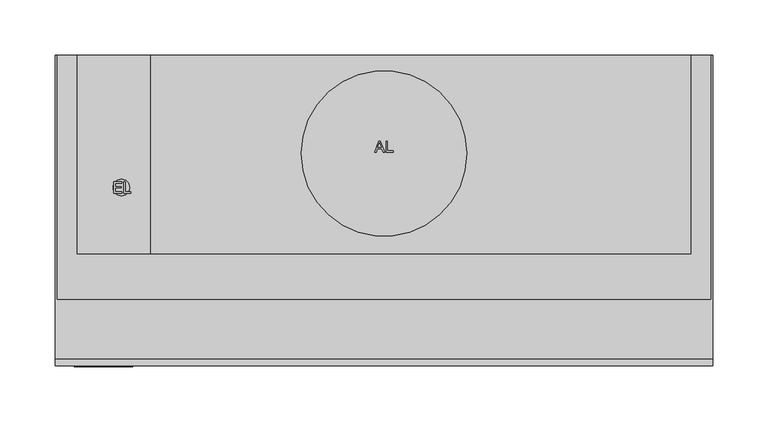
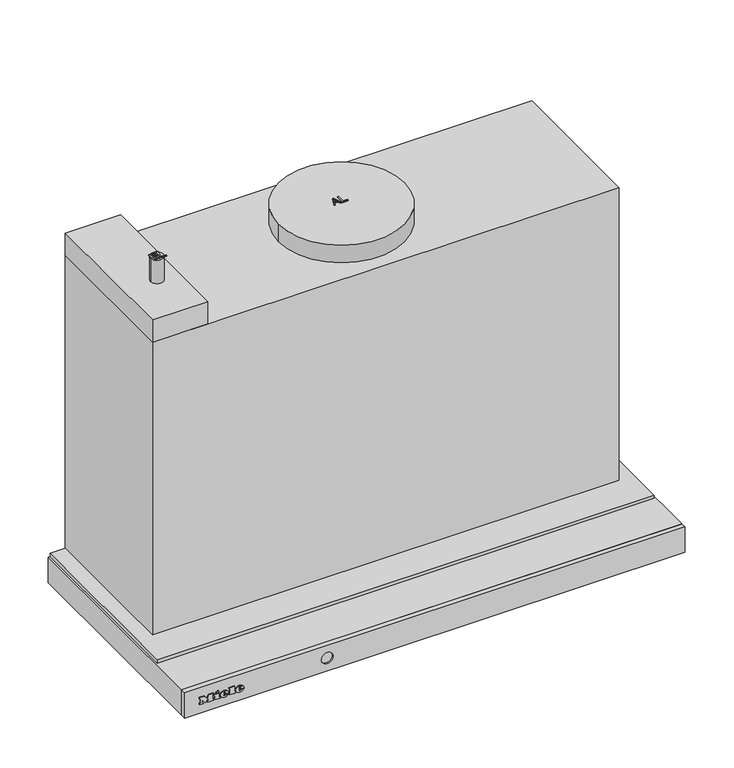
"""IFC4 building model written with IfcOpenShell, lengths in millimetres: proxy geometry, 12491120_RU_DAS4631_OBSW : 28S4631B_RU_12491120_DAS4631_OBSW."""

from ifc_helpers import new_model, si_unit, point, frame, frame_2d, origin, origin_with_axes, place, context, project, spatial, polyline, circle_curve, ellipse_curve, trimmed, segment, composite_curve, outline, extrude, faceted_brep, source, transform, mapped, element, save
from ifc_brep_helpers import plane_surface, cylinder_surface, revolved_surface, extruded_surface, advanced_brep


def specialty_equipment_66e986f9(model_context):
    return source(origin(), model_context, "Body", "SolidModel", [
        advanced_brep(
        [(-233.4590019, -282.1878927, -18.7681017), (-233.4590019, -282.1878927, -17.8894017), (-227.6387019, -282.1878927, -17.8894017), (-237.7655019, -282.1878927, -17.8894017), (-235.3730019, -282.1878927, -20.8300017), (-227.7866019, -282.1878927, -18.7681017), (-230.4140019, -282.1878927, -18.7681017), (-232.4846019, -282.1878927, -19.7425017), (-233.4590019, -282.1878927, -16.7758017), (-233.4590019, -282.1878927, -15.8275017), (-231.9713019, -282.1878927, -15.8275017), (-231.9713019, -282.1878927, -16.7758017), (-233.4590019, -281.1878927, -18.7681017), (-232.4846019, -281.1878927, -19.7425017), (-230.4140019, -281.1878927, -18.7681017), (-227.7866019, -281.1878927, -18.7681017), (-235.3730019, -281.1878927, -20.8300017), (-237.7655019, -281.1878927, -17.8894017), (-227.6387019, -281.1878927, -17.8894017), (-233.4590019, -281.1878927, -17.8894017), (-233.4590019, -281.1878927, -16.7758017), (-231.9713019, -281.1878927, -16.7758017), (-231.9713019, -281.1878927, -15.8275017), (-233.4590019, -281.1878927, -15.8275017)],
        [
            (0, 1),
            (1, 2),
            (2, 3, ellipse_curve(frame((-232.7021019, -282.1878927, -17.8894017), z_axis=(0.0, -1.0, 0.0), x_axis=(-1.0, 0.0, 0.0)), 5.0634, 4.1847)),
            (3, 4, circle_curve(frame((-234.3985544, -282.1878927, -17.5936017), z_axis=(0.0, -1.0, 0.0), x_axis=(0.0, 0.0, -1.0)), 3.3799161)),
            (4, 5, circle_curve(frame((-232.8034638, -282.1878927, -15.2968017), z_axis=(0.0, -1.0, 0.0), x_axis=(0.0, 0.0, -1.0)), 6.1007236)),
            (5, 6),
            (6, 7, circle_curve(frame((-232.0593254, -282.1878927, -17.9590017), z_axis=(0.0, 1.0, 0.0), x_axis=(0.0, 0.0, -1.0)), 1.8335027)),
            (7, 0, circle_curve(frame((-232.4846019, -282.1878927, -18.7681017), z_axis=(0.0, 1.0, 0.0), x_axis=(0.0, 0.0, -1.0)), 0.9744)),
            (8, 9),
            (9, 10, circle_curve(frame((-232.7151519, -282.1878927, -15.8275017), z_axis=(0.0, 1.0, 0.0), x_axis=(0.0, 0.0, -1.0)), 0.74385)),
            (10, 11),
            (11, 8),
            (12, 13, circle_curve(frame((-232.4846019, -281.1878927, -18.7681017), z_axis=(0.0, -1.0, 0.0), x_axis=(0.0, 0.0, -1.0)), 0.9744)),
            (13, 14, circle_curve(frame((-232.0593254, -281.1878927, -17.9590017), z_axis=(0.0, -1.0, 0.0), x_axis=(0.0, 0.0, -1.0)), 1.8335027)),
            (14, 15),
            (15, 16, circle_curve(frame((-232.8034638, -281.1878927, -15.2968017), z_axis=(0.0, 1.0, 0.0), x_axis=(0.0, 0.0, -1.0)), 6.1007236)),
            (16, 17, circle_curve(frame((-234.3985544, -281.1878927, -17.5936017), z_axis=(0.0, 1.0, 0.0), x_axis=(0.0, 0.0, -1.0)), 3.3799161)),
            (17, 18, ellipse_curve(frame((-232.7021019, -281.1878927, -17.8894017), z_axis=(0.0, 1.0, 0.0), x_axis=(-1.0, 0.0, 0.0)), 5.0634, 4.1847)),
            (18, 19),
            (19, 12),
            (20, 21),
            (21, 22),
            (22, 23, circle_curve(frame((-232.7151519, -281.1878927, -15.8275017), z_axis=(0.0, -1.0, 0.0), x_axis=(0.0, 0.0, -1.0)), 0.74385)),
            (23, 20),
            (0, 12),
            (19, 1),
            (18, 2),
            (5, 15),
            (14, 6),
            (17, 3),
            (13, 7),
            (16, 4),
            (8, 20),
            (23, 9),
            (22, 10),
            (21, 11),
        ],
        [
            plane_surface(frame((-233.4590019, -282.1878927, -17.8894017), z_axis=(0.0, -1.0, 0.0), x_axis=(0.0, 0.0, 1.0))),
            plane_surface(frame((-233.4590019, -281.1878927, -17.8894017), z_axis=(0.0, 1.0, 0.0), x_axis=(0.0, 0.0, -1.0))),
            plane_surface(frame((-233.4590019, -282.1878927, -18.7681017), z_axis=(1.0, 0.0, 0.0), x_axis=(0.0, 1.0, 0.0))),
            plane_surface(frame((-233.4590019, -282.1878927, -17.8894017), z_axis=(0.0, 0.0, -1.0), x_axis=(0.0, 1.0, 0.0))),
            plane_surface(frame((-227.7866019, -282.1878927, -18.7681017), z_axis=(0.0, 0.0, 1.0), x_axis=(0.0, 1.0, 0.0))),
            extruded_surface(trimmed(ellipse_curve(frame((-232.7021019, -280.1878927, -17.8894017), z_axis=(0.0, -1.0, 0.0), x_axis=(-1.0, 0.0, 0.0)), 5.0634, 4.1847), [point((-227.6387019, -280.1878927, -17.8894017))], [point((-237.7655019, -280.1878927, -17.8894017))], True, "CARTESIAN"), (0.0, -1.0, 0.0), 1.0),
            revolved_surface(polyline([(-232.0593254, -281.1878927, -19.792504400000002), (-232.0593254, -282.1878927, -19.792504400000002)]), (-232.0593254, -281.1878927, -17.9590017), (0.0, 1.0, 0.0)),
            revolved_surface(polyline([(-232.4846019, -281.1878927, -19.7425017), (-232.4846019, -282.1878927, -19.7425017)]), (-232.4846019, -281.1878927, -18.7681017), (0.0, 1.0, 0.0)),
            cylinder_surface(frame((-234.3985544, -281.1878927, -17.5936017), z_axis=(0.0, -1.0, 0.0), x_axis=(0.0, 0.0, -1.0)), 3.3799161),
            cylinder_surface(frame((-232.8034638, -281.1878927, -15.2968017), z_axis=(0.0, -1.0, 0.0), x_axis=(0.0, 0.0, -1.0)), 6.1007236),
            plane_surface(frame((-233.4590019, -282.1878927, -16.7758017), z_axis=(1.0, 0.0, 0.0), x_axis=(0.0, 1.0, 0.0))),
            revolved_surface(polyline([(-232.7151519, -281.1878927, -16.571351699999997), (-232.7151519, -282.1878927, -16.571351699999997)]), (-232.7151519, -281.1878927, -15.8275017), (0.0, 1.0, 0.0)),
            plane_surface(frame((-231.9713019, -282.1878927, -15.8275017), z_axis=(-1.0, 0.0, 0.0), x_axis=(0.0, 1.0, 0.0))),
            plane_surface(frame((-231.9713019, -282.1878927, -16.7758017), z_axis=(0.0, 0.0, 1.0), x_axis=(0.0, 1.0, 0.0))),
        ],
        [
            (0, [[1, 2, 3, 4, 5, 6, 7, 8], [9, 10, 11, 12]]),
            (1, [[13, 14, 15, 16, 17, 18, 19, 20], [21, 22, 23, 24]]),
            (2, [[-1, 25, -20, 26]]),
            (3, [[-2, -26, -19, 27]]),
            (4, [[-6, 28, -15, 29]]),
            (5, [[-3, -27, -18, 30]]),
            (6, [[-7, -29, -14, 31]]),
            (7, [[-8, -31, -13, -25]]),
            (8, [[-4, -30, -17, 32]]),
            (9, [[-5, -32, -16, -28]]),
            (10, [[-9, 33, -24, 34]]),
            (11, [[-10, -34, -23, 35]]),
            (12, [[-11, -35, -22, 36]]),
            (13, [[-12, -36, -21, -33]]),
        ],
    ),
        advanced_brep(
        [(-251.6159019, -282.1878927, -18.7681017), (-251.6159019, -282.1878927, -17.8894017), (-245.7956019, -282.1878927, -17.8894017), (-255.9224019, -282.1878927, -17.8894017), (-253.5299019, -282.1878927, -20.8300017), (-245.9435019, -282.1878927, -18.7681017), (-248.5709019, -282.1878927, -18.7681017), (-250.6415019, -282.1878927, -19.7425017), (-251.6159019, -282.1878927, -16.7758017), (-251.6159019, -282.1878927, -15.8275017), (-250.1282019, -282.1878927, -15.8275017), (-250.1282019, -282.1878927, -16.7758017), (-251.6159019, -281.1878927, -18.7681017), (-250.6415019, -281.1878927, -19.7425017), (-248.5709019, -281.1878927, -18.7681017), (-245.9435019, -281.1878927, -18.7681017), (-253.5299019, -281.1878927, -20.8300017), (-255.9224019, -281.1878927, -17.8894017), (-245.7956019, -281.1878927, -17.8894017), (-251.6159019, -281.1878927, -17.8894017), (-251.6159019, -281.1878927, -16.7758017), (-250.1282019, -281.1878927, -16.7758017), (-250.1282019, -281.1878927, -15.8275017), (-251.6159019, -281.1878927, -15.8275017)],
        [
            (0, 1),
            (1, 2),
            (2, 3, ellipse_curve(frame((-250.8590019, -282.1878927, -17.8894017), z_axis=(0.0, -1.0, 0.0), x_axis=(-1.0, 0.0, 0.0)), 5.0634, 4.1847)),
            (3, 4, circle_curve(frame((-252.5554544, -282.1878927, -17.5936017), z_axis=(0.0, -1.0, 0.0), x_axis=(0.0, 0.0, -1.0)), 3.3799161)),
            (4, 5, circle_curve(frame((-250.9603638, -282.1878927, -15.2968017), z_axis=(0.0, -1.0, 0.0), x_axis=(0.0, 0.0, -1.0)), 6.1007236)),
            (5, 6),
            (6, 7, circle_curve(frame((-250.2162254, -282.1878927, -17.9590017), z_axis=(0.0, 1.0, 0.0), x_axis=(0.0, 0.0, -1.0)), 1.8335027)),
            (7, 0, circle_curve(frame((-250.6415019, -282.1878927, -18.7681017), z_axis=(0.0, 1.0, 0.0), x_axis=(0.0, 0.0, -1.0)), 0.9744)),
            (8, 9),
            (9, 10, circle_curve(frame((-250.8720519, -282.1878927, -15.8275017), z_axis=(0.0, 1.0, 0.0), x_axis=(0.0, 0.0, -1.0)), 0.74385)),
            (10, 11),
            (11, 8),
            (12, 13, circle_curve(frame((-250.6415019, -281.1878927, -18.7681017), z_axis=(0.0, -1.0, 0.0), x_axis=(0.0, 0.0, -1.0)), 0.9744)),
            (13, 14, circle_curve(frame((-250.2162254, -281.1878927, -17.9590017), z_axis=(0.0, -1.0, 0.0), x_axis=(0.0, 0.0, -1.0)), 1.8335027)),
            (14, 15),
            (15, 16, circle_curve(frame((-250.9603638, -281.1878927, -15.2968017), z_axis=(0.0, 1.0, 0.0), x_axis=(0.0, 0.0, -1.0)), 6.1007236)),
            (16, 17, circle_curve(frame((-252.5554544, -281.1878927, -17.5936017), z_axis=(0.0, 1.0, 0.0), x_axis=(0.0, 0.0, -1.0)), 3.3799161)),
            (17, 18, ellipse_curve(frame((-250.8590019, -281.1878927, -17.8894017), z_axis=(0.0, 1.0, 0.0), x_axis=(-1.0, 0.0, 0.0)), 5.0634, 4.1847)),
            (18, 19),
            (19, 12),
            (20, 21),
            (21, 22),
            (22, 23, circle_curve(frame((-250.8720519, -281.1878927, -15.8275017), z_axis=(0.0, -1.0, 0.0), x_axis=(0.0, 0.0, -1.0)), 0.74385)),
            (23, 20),
            (0, 12),
            (19, 1),
            (18, 2),
            (5, 15),
            (14, 6),
            (17, 3),
            (13, 7),
            (16, 4),
            (8, 20),
            (23, 9),
            (22, 10),
            (21, 11),
        ],
        [
            plane_surface(frame((-251.6159019, -282.1878927, -17.8894017), z_axis=(0.0, -1.0, 0.0), x_axis=(0.0, 0.0, 1.0))),
            plane_surface(frame((-251.6159019, -281.1878927, -17.8894017), z_axis=(0.0, 1.0, 0.0), x_axis=(0.0, 0.0, -1.0))),
            plane_surface(frame((-251.6159019, -282.1878927, -18.7681017), z_axis=(1.0, 0.0, 0.0), x_axis=(0.0, 1.0, 0.0))),
            plane_surface(frame((-251.6159019, -282.1878927, -17.8894017), z_axis=(0.0, 0.0, -1.0), x_axis=(0.0, 1.0, 0.0))),
            plane_surface(frame((-245.9435019, -282.1878927, -18.7681017), z_axis=(0.0, 0.0, 1.0), x_axis=(0.0, 1.0, 0.0))),
            extruded_surface(trimmed(ellipse_curve(frame((-250.8590019, -280.1878927, -17.8894017), z_axis=(0.0, -1.0, 0.0), x_axis=(-1.0, 0.0, 0.0)), 5.0634, 4.1847), [point((-245.7956019, -280.1878927, -17.8894017))], [point((-255.9224019, -280.1878927, -17.8894017))], True, "CARTESIAN"), (0.0, -1.0, 0.0), 1.0),
            revolved_surface(polyline([(-250.2162254, -281.1878927, -19.792504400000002), (-250.2162254, -282.1878927, -19.792504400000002)]), (-250.2162254, -281.1878927, -17.9590017), (0.0, 1.0, 0.0)),
            revolved_surface(polyline([(-250.6415019, -281.1878927, -19.7425017), (-250.6415019, -282.1878927, -19.7425017)]), (-250.6415019, -281.1878927, -18.7681017), (0.0, 1.0, 0.0)),
            cylinder_surface(frame((-252.5554544, -281.1878927, -17.5936017), z_axis=(0.0, -1.0, 0.0), x_axis=(0.0, 0.0, -1.0)), 3.3799161),
            cylinder_surface(frame((-250.9603638, -281.1878927, -15.2968017), z_axis=(0.0, -1.0, 0.0), x_axis=(0.0, 0.0, -1.0)), 6.1007236),
            plane_surface(frame((-251.6159019, -282.1878927, -16.7758017), z_axis=(1.0, 0.0, 0.0), x_axis=(0.0, 1.0, 0.0))),
            revolved_surface(polyline([(-250.8720519, -281.1878927, -16.571351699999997), (-250.8720519, -282.1878927, -16.571351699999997)]), (-250.8720519, -281.1878927, -15.8275017), (0.0, 1.0, 0.0)),
            plane_surface(frame((-250.1282019, -282.1878927, -15.8275017), z_axis=(-1.0, 0.0, 0.0), x_axis=(0.0, 1.0, 0.0))),
            plane_surface(frame((-250.1282019, -282.1878927, -16.7758017), z_axis=(0.0, 0.0, 1.0), x_axis=(0.0, 1.0, 0.0))),
        ],
        [
            (0, [[1, 2, 3, 4, 5, 6, 7, 8], [9, 10, 11, 12]]),
            (1, [[13, 14, 15, 16, 17, 18, 19, 20], [21, 22, 23, 24]]),
            (2, [[-1, 25, -20, 26]]),
            (3, [[-2, -26, -19, 27]]),
            (4, [[-6, 28, -15, 29]]),
            (5, [[-3, -27, -18, 30]]),
            (6, [[-7, -29, -14, 31]]),
            (7, [[-8, -31, -13, -25]]),
            (8, [[-4, -30, -17, 32]]),
            (9, [[-5, -32, -16, -28]]),
            (10, [[-9, 33, -24, 34]]),
            (11, [[-10, -34, -23, 35]]),
            (12, [[-11, -35, -22, 36]]),
            (13, [[-12, -36, -21, -33]]),
        ],
    ),
        extrude(outline(polyline([(-12.6433017, -261.1250019), (-14.0527017, -260.4638019), (-12.6781017, -257.5145019), (-11.2687017, -258.1670019), (-12.6433017, -261.1250019)])), frame((0.0, -282.1878927, 0.0), z_axis=(0.0, 1.0, 0.0), x_axis=(0.0, 0.0, 1.0)), (0.0, 0.0, 1.0), 1.0),
        extrude(outline(polyline([(-14.2441017, -263.2739019), (-15.8014017, -263.2739019), (-15.8014017, -262.2386019), (-19.3684017, -262.2386019), (-19.3684017, -263.2739019), (-20.8300017, -263.2739019), (-20.8300017, -256.4096019), (-19.3684017, -256.4096019), (-19.3684017, -257.4188019), (-14.2441017, -257.4188019), (-14.2441017, -263.2739019)])), frame((0.0, -282.1878927, 0.0), z_axis=(0.0, 1.0, 0.0), x_axis=(0.0, 0.0, 1.0)), (0.0, 0.0, 1.0), 1.0),
        extrude(outline(polyline([(-13.5481017, -245.3084019), (-13.5481017, -244.2644019), (-19.3684017, -244.2644019), (-19.3684017, -245.3084019), (-20.8300017, -245.3084019), (-20.8300017, -238.2527019), (-19.3684017, -238.2527019), (-19.3684017, -239.3228019), (-12.1300017, -239.3228019), (-12.1300017, -245.3084019), (-13.5481017, -245.3084019)])), frame((0.0, -282.1878927, 0.0), z_axis=(0.0, 1.0, 0.0), x_axis=(0.0, 0.0, 1.0)), (0.0, 0.0, 1.0), 1.0),
        extrude(outline(polyline([(-13.5481017, -280.6130019), (-13.5481017, -279.5603019), (-19.3684017, -279.5603019), (-19.3684017, -280.6130019), (-20.8300017, -280.6130019), (-20.8300017, -276.7850019), (-19.3684017, -276.7850019), (-19.3684017, -277.8290019), (-15.6719769, -277.8290019), (-20.8300017, -273.9401019), (-15.5772794, -270.0338019), (-19.3684017, -270.0338019), (-19.3684017, -271.1039019), (-20.8300017, -271.1039019), (-20.8300017, -264.1613019), (-19.3684017, -264.1613019), (-19.3684017, -265.2662019), (-13.5481017, -265.2662019), (-13.5481017, -264.1613019), (-12.1300017, -264.1613019), (-12.1300017, -269.4596019), (-15.3925017, -272.0000019), (-12.1300017, -274.5491019), (-12.1300017, -280.6130019), (-13.5481017, -280.6130019)])), frame((0.0, -282.1878927, 0.0), z_axis=(0.0, 1.0, 0.0), x_axis=(0.0, 0.0, 1.0)), (0.0, 0.0, 1.0), 1.0),
        advanced_brep(
        [(-298.0, -281.1878927, 0.0), (-298.0, -281.1878927, -32.0), (298.0, -281.1878927, -32.0), (298.0, -281.1878927, 0.0), (-120.989338, -281.1878927, -16.0), (-135.010662, -281.1878927, -16.0), (-298.0, -275.4770358, 0.0), (298.0, -275.4770358, 0.0), (298.0, -275.4770358, -32.0), (-298.0, -275.4770358, -32.0), (-135.010662, -279.3472208, -16.0), (-120.989338, -279.3472208, -16.0)],
        [
            (0, 1),
            (1, 2),
            (2, 3),
            (3, 0),
            (4, 5, circle_curve(frame((-128.0, -281.1878927, -16.0), z_axis=(0.0, 1.0, 0.0), x_axis=(1.0, 0.0, 0.0)), 7.010662)),
            (5, 4, circle_curve(frame((-128.0, -281.1878927, -16.0), z_axis=(0.0, 1.0, 0.0), x_axis=(1.0, 0.0, 0.0)), 7.010662)),
            (6, 7),
            (7, 8),
            (8, 9),
            (9, 6),
            (3, 7),
            (6, 0),
            (2, 8),
            (1, 9),
            (10, 11, circle_curve(frame((-128.0, -279.3472208, -16.0), z_axis=(0.0, -1.0, 0.0), x_axis=(1.0, 0.0, 0.0)), 7.010662)),
            (11, 10, circle_curve(frame((-128.0, -279.3472208, -16.0), z_axis=(0.0, -1.0, 0.0), x_axis=(1.0, 0.0, 0.0)), 7.010662)),
            (10, 5),
            (4, 11),
        ],
        [
            plane_surface(frame((-298.0, -281.1878927, 0.0), z_axis=(0.0, -1.0, 0.0), x_axis=(0.0, 0.0, -1.0))),
            plane_surface(frame((-298.0, -275.4770358, 0.0), z_axis=(0.0, 1.0, 0.0), x_axis=(0.0, 0.0, 1.0))),
            plane_surface(frame((298.0, -281.1878927, 0.0), z_axis=(0.0, 0.0, 1.0), x_axis=(0.0, 1.0, 0.0))),
            plane_surface(frame((298.0, -281.1878927, -32.0), z_axis=(1.0, 0.0, 0.0), x_axis=(0.0, 1.0, 0.0))),
            plane_surface(frame((-298.0, -281.1878927, -32.0), z_axis=(0.0, 0.0, -1.0), x_axis=(0.0, 1.0, 0.0))),
            plane_surface(frame((-298.0, -281.1878927, 0.0), z_axis=(-1.0, 0.0, 0.0), x_axis=(0.0, 1.0, 0.0))),
            plane_surface(frame((-120.989338, -279.3472208, -16.0), z_axis=(0.0, -1.0, 0.0), x_axis=(0.0, 0.0, -1.0))),
            revolved_surface(polyline([(-120.989338, -281.1878927, -16.0), (-120.989338, -279.3472208, -16.0)]), (-128.0, -279.3472208, -16.0), (0.0, -1.0, 0.0)),
        ],
        [
            (0, [[1, 2, 3, 4], [5, 6]]),
            (1, [[7, 8, 9, 10]]),
            (2, [[-4, 11, -7, 12]]),
            (3, [[-3, 13, -8, -11]]),
            (4, [[-2, 14, -9, -13]]),
            (5, [[-1, -12, -10, -14]]),
            (6, [[15, 16]]),
            (7, [[-15, 17, -5, 18]]),
            (7, [[-16, -18, -6, -17]]),
        ],
    ),
        extrude(outline(polyline([(120.0, -19.25), (120.0, -31.75), (-120.0, -31.75), (-120.0, -19.25), (120.0, -19.25)])), frame((0.0, 0.0, -23.0), z_axis=(0.0, 0.0, 1.0), x_axis=(1.0, 0.0, 0.0)), (0.0, 0.0, 1.0), 1.785426),
        extrude(outline(polyline([(296.0, 0.0), (296.0, -221.0), (-296.0, -221.0), (-296.0, 0.0), (296.0, 0.0)])), origin_with_axes(), (0.0, 0.0, 1.0), 4.0),
        extrude(outline(polyline([(-8.547125, -87.975609), (-4.5372113, -77.929978), (-3.4679009, -77.929978), (0.5420128, -87.975609), (-0.7848149, -87.975609), (-1.9350593, -84.8363493), (-6.0725055, -84.8363493), (-7.2202973, -87.975609), (-8.547125, -87.975609)]), holes=[polyline([(-5.6114267, -83.5806455), (-2.3936855, -83.5806455), (-3.2986752, -81.110931), (-4.0025561, -79.1856819), (-4.6279555, -80.8951069), (-5.6114267, -83.5806455)])]), frame((0.0, 0.0, 395.0), z_axis=(0.0, 0.0, 1.0), x_axis=(1.0, 0.0, 0.0)), (0.0, 0.0, 1.0), 1.0),
        extrude(outline(polyline([(1.8835558, -87.975609), (1.8835558, -77.929978), (3.1392597, -77.929978), (3.1392597, -86.7199052), (8.1620752, -86.7199052), (8.1620752, -87.975609), (1.8835558, -87.975609)])), frame((0.0, 0.0, 395.0), z_axis=(0.0, 0.0, 1.0), x_axis=(1.0, 0.0, 0.0)), (0.0, 0.0, 1.0), 1.0),
        faceted_brep([(298.0, 0.0, -32.0), (298.0, -275.0, -32.0), (-298.0, -275.0, -32.0), (-298.0, 0.0, -32.0), (-263.0, 0.0, -32.0), (-263.0, -242.0, -32.0), (263.0, -242.0, -32.0), (263.0, 0.0, -32.0), (298.0, 0.0, 0.0), (-298.0, 0.0, 0.0), (-298.0, -275.0, 0.0), (298.0, -275.0, 0.0), (263.0, 0.0, -24.0), (-263.0, 0.0, -24.0), (263.0, -242.0, -25.0), (-263.0, -242.0, -25.0), (-263.0, -52.0, -25.0), (263.0, -52.0, -25.0), (-263.0, -52.0, -24.0), (263.0, -52.0, -24.0), (126.0, -12.0, -24.0), (-126.0, -12.0, -24.0), (-126.0, -39.0, -24.0), (126.0, -39.0, -24.0), (126.0, -12.0, -21.214574), (126.0, -39.0, -21.214574), (-126.0, -39.0, -21.214574), (-126.0, -12.0, -21.214574)], [[[0, 1, 2, 3, 4, 5, 6, 7]], [[8, 9, 10, 11]], [[9, 8, 0, 7, 12, 13, 4, 3]], [[3, 2, 10, 9]], [[2, 1, 11, 10]], [[1, 0, 8, 11]], [[14, 15, 16, 17]], [[15, 5, 4, 13, 18, 16]], [[15, 14, 6, 5]], [[6, 14, 17, 19, 12, 7]], [[12, 19, 18, 13], [20, 21, 22, 23]], [[18, 19, 17, 16]], [[24, 25, 26, 27]], [[24, 27, 21, 20]], [[27, 26, 22, 21]], [[26, 25, 23, 22]], [[25, 24, 20, 23]]]),
        extrude(outline(polyline([(-278.0, -180.0), (-278.0, 0.0), (-212.0, 0.0), (-212.0, -180.0), (-278.0, -180.0)])), frame((0.0, 0.0, 373.0), z_axis=(0.0, 0.0, 1.0), x_axis=(1.0, 0.0, 0.0)), (0.0, 0.0, 1.0), 28.0),
        extrude(outline(composite_curve([segment(trimmed(circle_curve(frame_2d((0.0, -89.0)), 75.0), [point((-75.0, -89.0))], [point((75.0, -89.0))], False, "CARTESIAN"), True, "CONTINUOUS"), segment(trimmed(circle_curve(frame_2d((0.0, -89.0)), 75.0), [point((75.0, -89.0))], [point((-75.0, -89.0))], False, "CARTESIAN"), True, "CONTINUOUS")], self_intersect=False)), frame((0.0, 0.0, 373.0), z_axis=(0.0, 0.0, 1.0), x_axis=(1.0, 0.0, 0.0)), (0.0, 0.0, 1.0), 22.0),
        extrude(outline(polyline([(278.0, -180.0), (-278.0, -180.0), (-278.0, 0.0), (278.0, 0.0), (278.0, -180.0)])), frame((0.0, 0.0, 4.0), z_axis=(0.0, 0.0, 1.0), x_axis=(1.0, 0.0, 0.0)), (0.0, 0.0, 1.0), 369.0),
        extrude(outline(polyline([(-244.9012591, -124.9184735), (-244.9012591, -114.8728425), (-237.6809618, -114.8728425), (-237.6809618, -116.1285464), (-243.6455552, -116.1285464), (-243.6455552, -119.1108431), (-237.9948878, -119.1108431), (-237.9948878, -120.366547), (-243.6455552, -120.366547), (-243.6455552, -123.6627696), (-237.5239988, -123.6627696), (-237.5239988, -124.9184735), (-244.9012591, -124.9184735)])), frame((0.0, 0.0, 431.0), z_axis=(0.0, 0.0, 1.0), x_axis=(1.0, 0.0, 0.0)), (0.0, 0.0, 1.0), 1.0),
        extrude(outline(polyline([(-235.640443, -124.9184735), (-235.640443, -114.8728425), (-234.3847391, -114.8728425), (-234.3847391, -123.6627696), (-229.3619236, -123.6627696), (-229.3619236, -124.9184735), (-235.640443, -124.9184735)])), frame((0.0, 0.0, 431.0), z_axis=(0.0, 0.0, 1.0), x_axis=(1.0, 0.0, 0.0)), (0.0, 0.0, 1.0), 1.0),
        extrude(outline(composite_curve([segment(trimmed(circle_curve(frame_2d((-238.0, -120.0)), 7.5), [point((-230.5, -120.0))], [point((-245.5, -120.0))], False, "CARTESIAN"), True, "CONTINUOUS"), segment(trimmed(circle_curve(frame_2d((-238.0, -120.0)), 7.5), [point((-245.5, -120.0))], [point((-230.5, -120.0))], False, "CARTESIAN"), True, "CONTINUOUS")], self_intersect=False)), frame((0.0, 0.0, 401.0), z_axis=(0.0, 0.0, 1.0), x_axis=(1.0, 0.0, 0.0)), (0.0, 0.0, 1.0), 30.0),
        extrude(outline(polyline([(181.0813184, -268.0), (181.0813184, -246.0), (249.0, -246.0), (249.0, -268.0), (181.0813184, -268.0)])), frame((0.0, 0.0, -33.3019181), z_axis=(0.0, 0.0, 1.0), x_axis=(1.0, 0.0, 0.0)), (0.0, 0.0, 1.0), 1.3019181),
        extrude(outline(polyline([(-249.0, -268.0), (-249.0, -246.0), (-181.0, -246.0), (-181.0, -268.0), (-249.0, -268.0)])), frame((0.0, 0.0, -33.3019181), z_axis=(0.0, 0.0, 1.0), x_axis=(1.0, 0.0, 0.0)), (0.0, 0.0, 1.0), 1.3019181),
    ])


if __name__ == "__main__":
    model = new_model("IFC4")
    model_context = context("Model", 3, world=origin())
    ifc_project = project(units=[si_unit("LENGTHUNIT", "METRE", prefix="MILLI")], contexts=[model_context])
    site = spatial("IfcSite", under=ifc_project)
    building = spatial("IfcBuilding", under=site)
    placement = place(None, origin())
    specialty_equipment_shape = specialty_equipment_66e986f9(model_context)
    element("IfcBuildingElementProxy", 1, Name="12491120_RU_DAS4631_OBSW : 28S4631B_RU_12491120_DAS4631_OBSW", ObjectType="12491120_RU_DAS4631_OBSW : 28S4631B_RU_12491120_DAS4631_OBSW", at=placement, inside=building, context=model_context, shape_type="MappedRepresentation", body=[
        mapped(specialty_equipment_shape, transform((0.0, 0.0, 0.0), x_axis=(1.0, 0.0, 0.0), y_axis=(0.0, 1.0, 0.0), z_axis=(0.0, 0.0, 1.0))),
    ])
    save(model, "model.ifc")
